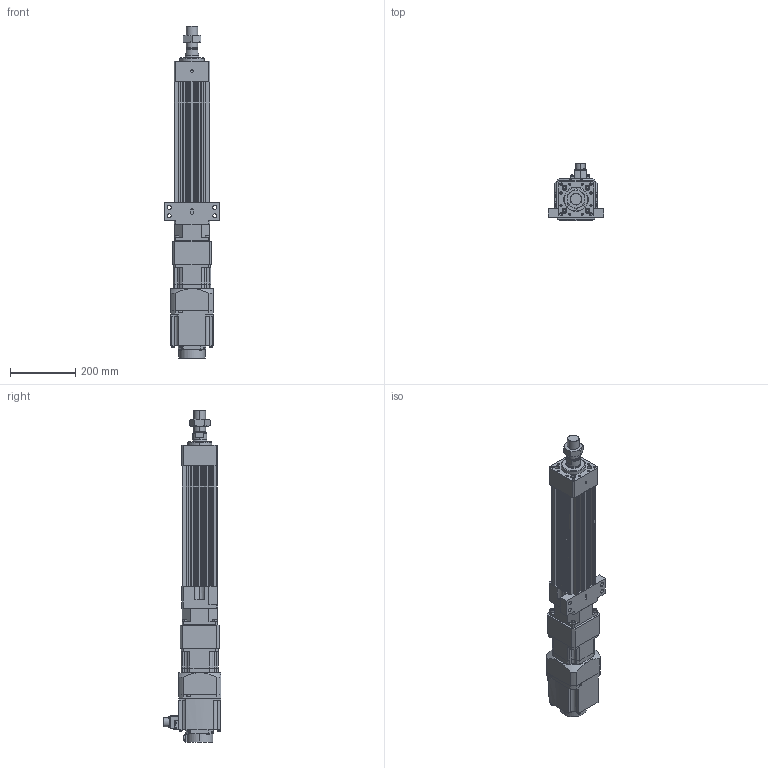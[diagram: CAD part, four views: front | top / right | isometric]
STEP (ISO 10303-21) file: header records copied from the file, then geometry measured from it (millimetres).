
FILE_DESCRIPTION (( 'STEP AP203' ), '1' );
FILE_NAME ('HES110NS(HS)-S200-W015G00-M-FFC.STEP', '2023-01-28T04:47:21', ( 'tms' ), ( '' ), 'SwSTEP 2.0', 'SolidWorks 2013', '' );
FILE_SCHEMA (( 'CONFIG_CONTROL_DESIGN' ));
Length unit declared in the file: millimetre
Products named in the file (8): HES110 ROD M ST200; P0401400706; AB1151; HES110NS(HS)-S200-W015G00-M-FFC; AB115-003[HG-SR152]; HES110-S200-G120-FFC; HG-SR152; M36X1.5P
Assembly tree (7 placements, depth 3):
  HES110NS(HS)-S200-W015G00-M-FFC
    HES110-S200-G120-FFC
    HES110 ROD M ST200
    M36X1.5P
    AB115-003[HG-SR152]
      AB1151
      P0401400706
    HG-SR152
Bounding box: 170 x 177.49 x 1021.5 mm (x, y, z)
Volume: 6616252.3 mm3; surface area: 895132.9 mm2
Topology: 4 solids, 15 shells, 1222 faces, 3083 edges, 1988 vertices
Faces by surface type: plane 557, cylinder 549, cone 104, bspline 8, torus 4
Entity records: 38313 total; most frequent: CARTESIAN_POINT 7246, DIRECTION 6648, ORIENTED_EDGE 6070, EDGE_CURVE 3045, AXIS2_PLACEMENT_3D 2450, VERTEX_POINT 1988, VECTOR 1748, LINE 1748
